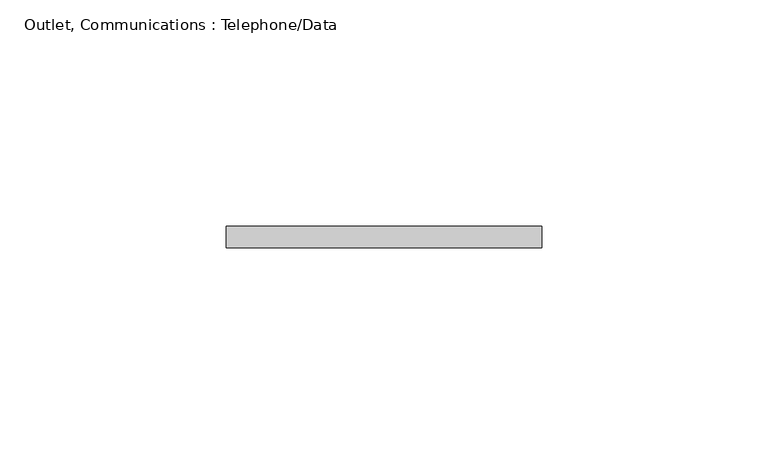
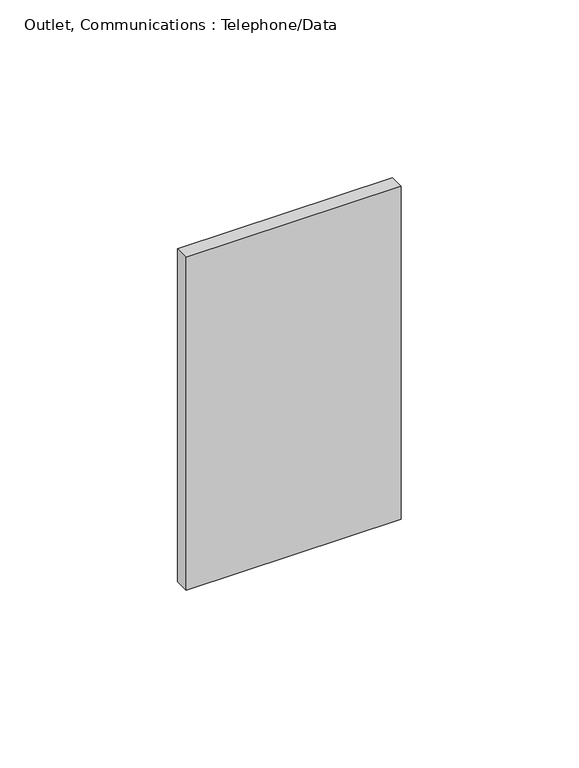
"""IFC4 building model written with IfcOpenShell, lengths in millimetres: proxy geometry, Outlet, Communications : Telephone/Data."""

from ifc_helpers import new_model, si_unit, origin, origin_with_axes, place, context, project, spatial, polyline, outline, extrude, source, transform, mapped, element, save


def outlet_communications_telephone_data_08633527(model_context):
    return source(origin(), model_context, "Body", "SweptSolid", [
        extrude(outline(polyline([(34.925, 61.9125), (-34.925, 61.9125), (-34.925, 66.675), (34.925, 66.675), (34.925, 61.9125)])), origin_with_axes(), (0.0, 0.0, 1.0), 114.3),
    ])


if __name__ == "__main__":
    model = new_model("IFC4")
    model_context = context("Model", 3, world=origin())
    ifc_project = project(units=[si_unit("LENGTHUNIT", "METRE", prefix="MILLI")], contexts=[model_context])
    site = spatial("IfcSite", under=ifc_project)
    building = spatial("IfcBuilding", under=site)
    placement = place(None, origin())
    outlet_communications_telephone_data_shape = outlet_communications_telephone_data_08633527(model_context)
    element("IfcBuildingElementProxy", 1, Name="Outlet, Communications : Telephone/Data", ObjectType="Outlet, Communications : Telephone/Data", at=placement, inside=building, context=model_context, shape_type="MappedRepresentation", body=[
        mapped(outlet_communications_telephone_data_shape, transform((0.0, 0.0, 0.0), x_axis=(1.0, 0.0, 0.0), y_axis=(0.0, 1.0, 0.0), z_axis=(0.0, 0.0, 1.0))),
    ])
    save(model, "model.ifc")
